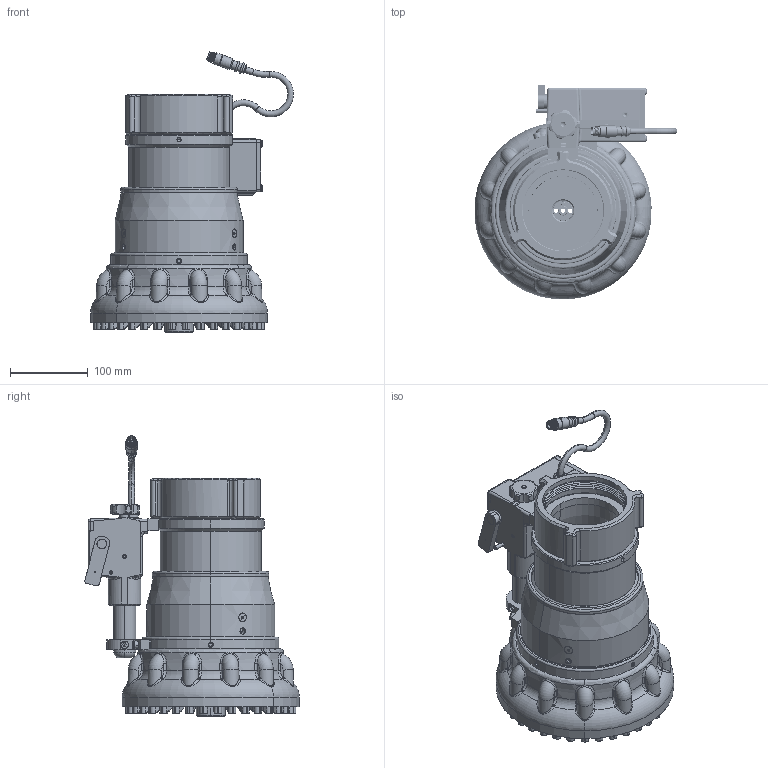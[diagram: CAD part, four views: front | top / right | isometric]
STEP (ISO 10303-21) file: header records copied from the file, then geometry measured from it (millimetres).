
FILE_DESCRIPTION (( 'STEP AP203' ), '1' );
FILE_NAME ('M-ERP2000-NN.step', '2014-05-13T19:39:27', ( 'user' ), ( '' ), 'SwSTEP 2.0', 'SolidWorks 2012', '' );
FILE_SCHEMA (( 'CONFIG_CONTROL_DESIGN' ));
Products named in the file (1): M-ERP2000-NN
Bounding box: 260.74 x 275.48 x 360.08 mm (x, y, z)
Volume: 3580362.3 mm3; surface area: 825151.2 mm2
Topology: 50 solids, 50 shells, 4702 faces, 11967 edges, 7574 vertices
Faces by surface type: plane 1877, cylinder 1222, bspline 693, cone 445, torus 431, sphere 34
Entity records: 180609 total; most frequent: CARTESIAN_POINT 75272, ORIENTED_EDGE 23832, DIRECTION 18936, EDGE_CURVE 11916, VERTEX_POINT 7559, AXIS2_PLACEMENT_3D 6831, LINE 5274, VECTOR 5274
